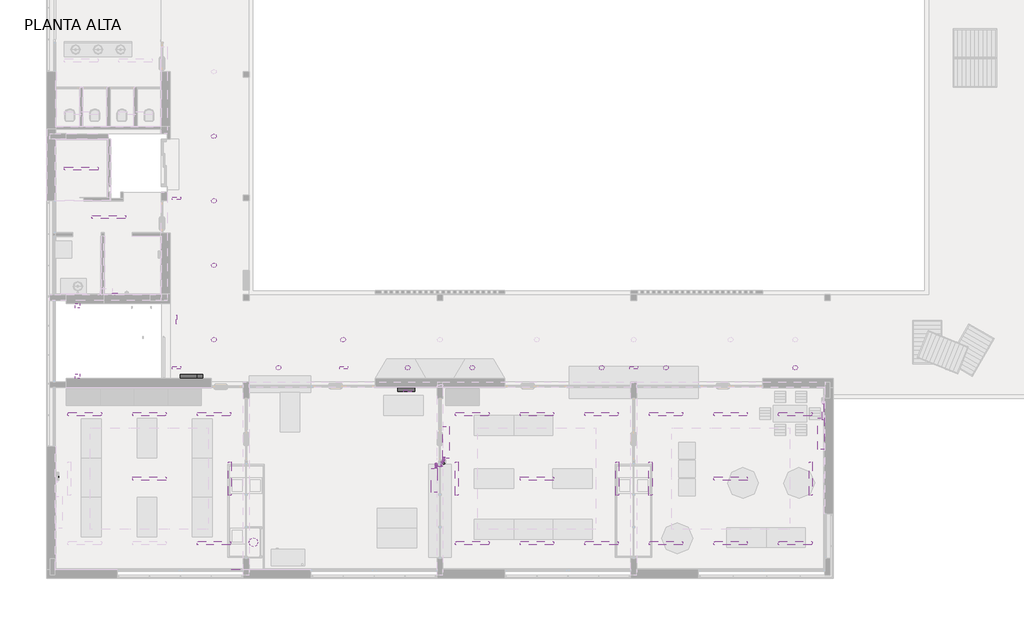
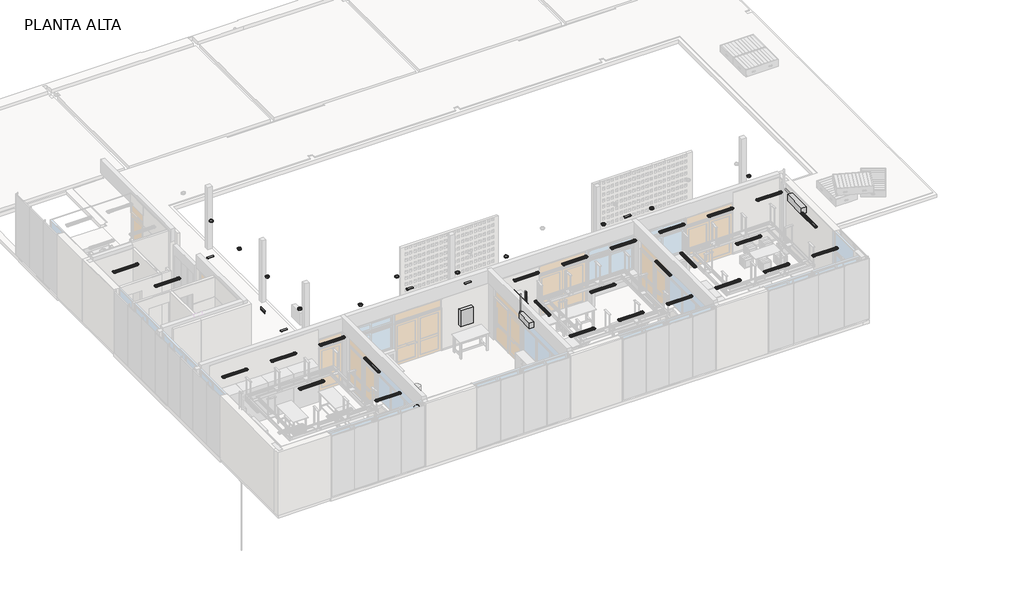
# One storey, part 12 of 14: 46 light fixtures, 20 pipe segments, 10 pipe fittings, 7 proxies.
"""IFC4 building model written with IfcOpenShell, lengths in millimetres."""

from ifc_helpers import new_model, si_unit, point, frame, frame_2d, origin, place, context, project, spatial, circle_curve, trimmed, segment, composite_curve, outline, extrude, transform, mapped, element, save
from ifc_brep_helpers import plane_surface, cylinder_surface, advanced_brep
from components import aa_unidad_interior_12_18_24_v2_12000btu_578df6c9, aa_unidad_interior_12_18_24_v2_24000btu_6bd6a99b, fi_30cm_ab08db21, pca1_20x80x15_228724ed, tl_60x80x15_6a5c2496, tpa1_60x80x15_be34f1a7, l150_l150_8baf4198, l151_l151_e0f7dd01, l207_l207_1a914073, l207_muro_l207_muro_697710b7, l251_l251_78c3c87a, l508_muro_l508_muro_c32f3ad5, l508_muro_l508_muro_abd03695, pipe_fitting_72b35c3b, m_codo_pvc_serie_40_57727813, m_codo_pvc_serie_40_517a5a8d, m_codo_pvc_serie_40_16f65888

model = new_model("IFC4")

# Units and contexts
model_context = context("Model", 3, world=origin())
ifc_project = project(units=[si_unit("LENGTHUNIT", "METRE", prefix="MILLI")], contexts=[model_context])

# Site, building, storey
site = spatial("IfcSite", under=ifc_project)
building = spatial("IfcBuilding", under=site)
storey = spatial("IfcBuildingStorey", under=building, Name="PLANTA ALTA", Elevation=3310.0)

# Proxies
placement = place(None, origin())
aa_unidad_interior_12_18_24_v2_12000btu_shape = aa_unidad_interior_12_18_24_v2_12000btu_578df6c9(model_context)
element("IfcBuildingElementProxy", 1, Name="AA Unidad interior 12-18-24 V2 : 12000BTU", ObjectType="AA Unidad interior 12-18-24 V2 : 12000BTU", at=placement, inside=storey, context=model_context, shape_type="MappedRepresentation", body=[
    mapped(aa_unidad_interior_12_18_24_v2_12000btu_shape, transform((16988.7173694, 3708.5637368, 6110.0), x_axis=(0.0, -1.0, 4.846079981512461e-12), y_axis=(0.0, 4.846079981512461e-12, 1.0), z_axis=(-1.0, 0.0, 0.0))),
])
aa_unidad_interior_12_18_24_v2_24000btu_shape = aa_unidad_interior_12_18_24_v2_24000btu_6bd6a99b(model_context)
element("IfcBuildingElementProxy", 2, Name="AA Unidad interior 12-18-24 V2 : 24000BTU", ObjectType="AA Unidad interior 12-18-24 V2 : 24000BTU", at=placement, inside=storey, context=model_context, shape_type="MappedRepresentation", body=[
    mapped(aa_unidad_interior_12_18_24_v2_24000btu_shape, transform((30773.7173693, 5368.5637368, 6110.0), x_axis=(0.0, -1.0, 0.0), y_axis=(0.0, 0.0, 1.0), z_axis=(-1.0, 0.0, 0.0))),
])
element("IfcBuildingElementProxy", 3, Name="AA Unidad interior 12-18-24 V2 : 24000BTU", ObjectType="AA Unidad interior 12-18-24 V2 : 24000BTU", at=placement, inside=storey, context=model_context, shape_type="MappedRepresentation", body=[
    mapped(aa_unidad_interior_12_18_24_v2_24000btu_shape, transform((17188.7173694, 5058.5637368, 6110.0), x_axis=(0.0, 1.0, 0.0), y_axis=(0.0, 0.0, 1.0), z_axis=(1.0, 0.0, 0.0))),
])
fi_30cm_shape = fi_30cm_ab08db21(model_context)
element("IfcBuildingElementProxy", 4, Name="Extractor Decor Circular : Fi 30cm", ObjectType="Extractor Decor Circular : Fi 30cm", at=placement, inside=storey, context=model_context, shape_type="MappedRepresentation", body=[
    mapped(fi_30cm_shape, transform((9812.7173693, 508.7304035, 6134.0), x_axis=(0.0, 0.0, 1.0), y_axis=(-1.0, 0.0, 0.0), z_axis=(0.0, -1.0, 0.0))),
])
pca1_20x80x15_shape = pca1_20x80x15_228724ed(model_context)
element("IfcBuildingElementProxy", 5, Name="TABLERO ELECTRICO DE SUPERFICIE : PCA1 20x80x15", ObjectType="TABLERO ELECTRICO DE SUPERFICIE : PCA1 20x80x15", at=placement, inside=storey, context=model_context, shape_type="MappedRepresentation", body=[
    mapped(pca1_20x80x15_shape, transform((8544.7173694, 7330.2304035, 5110.0), x_axis=(-1.0, 0.0, 0.0), y_axis=(0.0, 0.0, 1.0), z_axis=(0.0, 1.0, 0.0))),
])
tl_60x80x15_shape = tl_60x80x15_6a5c2496(model_context)
element("IfcBuildingElementProxy", 6, Name="TABLERO ELECTRICO DE SUPERFICIE : TL 60x80x15", ObjectType="TABLERO ELECTRICO DE SUPERFICIE : TL 60x80x15", at=placement, inside=storey, context=model_context, shape_type="MappedRepresentation", body=[
    mapped(tl_60x80x15_shape, transform((15888.7173694, 7020.2304035, 5110.0), x_axis=(-1.0, 0.0, 0.0), y_axis=(0.0, 0.0, -1.0), z_axis=(0.0, -1.0, 0.0))),
])
tpa1_60x80x15_shape = tpa1_60x80x15_be34f1a7(model_context)
element("IfcBuildingElementProxy", 7, Name="TABLERO ELECTRICO DE SUPERFICIE : TPA1 60x80x15", ObjectType="TABLERO ELECTRICO DE SUPERFICIE : TPA1 60x80x15", at=placement, inside=storey, context=model_context, shape_type="MappedRepresentation", body=[
    mapped(tpa1_60x80x15_shape, transform((8144.7173694, 7330.2304035, 5110.0), x_axis=(-1.0, 0.0, 0.0), y_axis=(0.0, 0.0, 1.0), z_axis=(0.0, 1.0, 0.0))),
])

# Light fixtures
l150_l150_shape = l150_l150_8baf4198(model_context)
element("IfcLightFixture", 8, ObjectType="L150 : L150", at=placement, inside=storey, context=model_context, shape_type="MappedRepresentation", body=[
    mapped(l150_l150_shape, transform((7708.7173693, 9437.7304035, 6410.0), x_axis=(0.0, -1.0, 0.0), y_axis=(-1.0, 0.0, 0.0), z_axis=(0.0, 0.0, -1.0))),
])
l151_l151_shape = l151_l151_e0f7dd01(model_context)
element("IfcLightFixture", 9, ObjectType="L151 : L151", at=placement, inside=storey, context=model_context, shape_type="MappedRepresentation", body=[
    mapped(l151_l151_shape, transform((7708.7173693, 7720.2304035, 6410.0), x_axis=(0.0, -1.0, 0.0), y_axis=(-1.0, 0.0, 0.0), z_axis=(0.0, 0.0, -1.0))),
])
element("IfcLightFixture", 10, ObjectType="L151 : L151", at=placement, inside=storey, context=model_context, shape_type="MappedRepresentation", body=[
    mapped(l151_l151_shape, transform((13663.7173694, 7720.2304035, 6410.0), x_axis=(0.0, -1.0, 0.0), y_axis=(-1.0, 0.0, 0.0), z_axis=(0.0, 0.0, -1.0))),
])
element("IfcLightFixture", 11, ObjectType="L151 : L151", at=placement, inside=storey, context=model_context, shape_type="MappedRepresentation", body=[
    mapped(l151_l151_shape, transform((15938.7173693, 6892.7389909, 6410.0), x_axis=(0.0, -1.0, 0.0), y_axis=(-1.0, 0.0, 0.0), z_axis=(0.0, 0.0, -1.0))),
])
element("IfcLightFixture", 12, ObjectType="L151 : L151", at=placement, inside=storey, context=model_context, shape_type="MappedRepresentation", body=[
    mapped(l151_l151_shape, transform((23988.7173694, 7720.2304035, 6410.0), x_axis=(0.0, -1.0, 0.0), y_axis=(-1.0, 0.0, 0.0), z_axis=(0.0, 0.0, -1.0))),
])
element("IfcLightFixture", 13, ObjectType="L151 : L151", at=placement, inside=storey, context=model_context, shape_type="MappedRepresentation", body=[
    mapped(l151_l151_shape, transform((7708.7173693, 13755.2304035, 6410.0), x_axis=(0.0, -1.0, 0.0), y_axis=(-1.0, 0.0, 0.0), z_axis=(0.0, 0.0, -1.0))),
])
l207_l207_shape = l207_l207_1a914073(model_context)
element("IfcLightFixture", 14, ObjectType="L207 : L207", at=placement, inside=storey, context=model_context, shape_type="MappedRepresentation", body=[
    mapped(l207_l207_shape, transform((9038.7173693, 8720.2304035, 3410.0), x_axis=(1.0, 0.0, 0.0), y_axis=(0.0, 1.0, 0.0), z_axis=(0.0, 0.0, 1.0))),
])
element("IfcLightFixture", 15, ObjectType="L207 : L207", at=placement, inside=storey, context=model_context, shape_type="MappedRepresentation", body=[
    mapped(l207_l207_shape, transform((13638.7173693, 8720.2304035, 3410.0), x_axis=(1.0, 0.0, 0.0), y_axis=(0.0, 1.0, 0.0), z_axis=(0.0, 0.0, 1.0))),
])
element("IfcLightFixture", 16, ObjectType="L207 : L207", at=placement, inside=storey, context=model_context, shape_type="MappedRepresentation", body=[
    mapped(l207_l207_shape, transform((29738.7173693, 7720.2304035, 3410.0), x_axis=(1.0, 0.0, 0.0), y_axis=(0.0, 1.0, 0.0), z_axis=(0.0, 0.0, 1.0))),
])
element("IfcLightFixture", 17, ObjectType="L207 : L207", at=placement, inside=storey, context=model_context, shape_type="MappedRepresentation", body=[
    mapped(l207_l207_shape, transform((25138.7173693, 7720.2304035, 3410.0), x_axis=(1.0, 0.0, 0.0), y_axis=(0.0, 1.0, 0.0), z_axis=(0.0, 0.0, 1.0))),
])
element("IfcLightFixture", 18, ObjectType="L207 : L207", at=placement, inside=storey, context=model_context, shape_type="MappedRepresentation", body=[
    mapped(l207_l207_shape, transform((22849.2317664, 7720.2304035, 3410.0), x_axis=(1.0, 0.0, 0.0), y_axis=(0.0, 1.0, 0.0), z_axis=(0.0, 0.0, 1.0))),
])
element("IfcLightFixture", 19, ObjectType="L207 : L207", at=placement, inside=storey, context=model_context, shape_type="MappedRepresentation", body=[
    mapped(l207_l207_shape, transform((18238.7173694, 7720.2304035, 3410.0), x_axis=(1.0, 0.0, 0.0), y_axis=(0.0, 1.0, 0.0), z_axis=(0.0, 0.0, 1.0))),
])
element("IfcLightFixture", 20, ObjectType="L207 : L207", at=placement, inside=storey, context=model_context, shape_type="MappedRepresentation", body=[
    mapped(l207_l207_shape, transform((15938.7173693, 7720.2304035, 3410.0), x_axis=(1.0, 0.0, 0.0), y_axis=(0.0, 1.0, 0.0), z_axis=(0.0, 0.0, 1.0))),
])
element("IfcLightFixture", 21, ObjectType="L207 : L207", at=placement, inside=storey, context=model_context, shape_type="MappedRepresentation", body=[
    mapped(l207_l207_shape, transform((11338.7173693, 7720.2304035, 3410.0), x_axis=(1.0, 0.0, 0.0), y_axis=(0.0, 1.0, 0.0), z_axis=(0.0, 0.0, 1.0))),
])
element("IfcLightFixture", 22, ObjectType="L207 : L207", at=placement, inside=storey, context=model_context, shape_type="MappedRepresentation", body=[
    mapped(l207_l207_shape, transform((9038.7173693, 11370.2304035, 3410.0), x_axis=(1.0, 0.0, 0.0), y_axis=(0.0, 1.0, 0.0), z_axis=(0.0, 0.0, 1.0))),
])
element("IfcLightFixture", 23, ObjectType="L207 : L207", at=placement, inside=storey, context=model_context, shape_type="MappedRepresentation", body=[
    mapped(l207_l207_shape, transform((9038.7173693, 13670.2304035, 3410.0), x_axis=(1.0, 0.0, 0.0), y_axis=(0.0, 1.0, 0.0), z_axis=(0.0, 0.0, 1.0))),
])
element("IfcLightFixture", 24, ObjectType="L207 : L207", at=placement, inside=storey, context=model_context, shape_type="MappedRepresentation", body=[
    mapped(l207_l207_shape, transform((9038.7173693, 15970.2304035, 3410.0), x_axis=(1.0, 0.0, 0.0), y_axis=(0.0, 1.0, 0.0), z_axis=(0.0, 0.0, 1.0))),
])
l207_muro_l207_muro_shape = l207_muro_l207_muro_697710b7(model_context)
element("IfcLightFixture", 25, ObjectType="L207 Muro : L207 Muro", at=placement, inside=storey, context=model_context, shape_type="MappedRepresentation", body=[
    mapped(l207_muro_l207_muro_shape, transform((5376.7320753, 10175.2304035, 3640.0), x_axis=(1.0, 0.0, 0.0), y_axis=(0.0, 1.0, 0.0), z_axis=(0.0, 0.0, 1.0))),
])
l251_l251_shape = l251_l251_78c3c87a(model_context)
element("IfcLightFixture", 26, ObjectType="L251 : L251", at=placement, inside=storey, context=model_context, shape_type="MappedRepresentation", body=[
    mapped(l251_l251_shape, transform((6740.2173693, 3768.5637368, 5010.0), x_axis=(1.0, 0.0, 0.0), y_axis=(0.0, 1.0, 0.0), z_axis=(0.0, 0.0, 1.0))),
])
element("IfcLightFixture", 27, ObjectType="L251 : L251", at=placement, inside=storey, context=model_context, shape_type="MappedRepresentation", body=[
    mapped(l251_l251_shape, transform((6740.2173693, 6068.5637368, 5010.0), x_axis=(1.0, 0.0, 0.0), y_axis=(0.0, 1.0, 0.0), z_axis=(0.0, 0.0, 1.0))),
])
element("IfcLightFixture", 28, ObjectType="L251 : L251", at=placement, inside=storey, context=model_context, shape_type="MappedRepresentation", body=[
    mapped(l251_l251_shape, transform((4440.2173693, 6068.5637368, 5010.0), x_axis=(1.0, 0.0, 0.0), y_axis=(0.0, 1.0, 0.0), z_axis=(0.0, 0.0, 1.0))),
])
element("IfcLightFixture", 29, ObjectType="L251 : L251", at=placement, inside=storey, context=model_context, shape_type="MappedRepresentation", body=[
    mapped(l251_l251_shape, transform((9597.7173693, 3768.5637368, 5010.0), x_axis=(0.0, 1.0, 0.0), y_axis=(-1.0, 0.0, 0.0), z_axis=(0.0, 0.0, 1.0))),
])
element("IfcLightFixture", 30, ObjectType="L251 : L251", at=placement, inside=storey, context=model_context, shape_type="MappedRepresentation", body=[
    mapped(l251_l251_shape, transform((9040.2173693, 6068.5637368, 5010.0), x_axis=(1.0, 0.0, 0.0), y_axis=(0.0, 1.0, 0.0), z_axis=(0.0, 0.0, 1.0))),
])
element("IfcLightFixture", 31, ObjectType="L251 : L251", at=placement, inside=storey, context=model_context, shape_type="MappedRepresentation", body=[
    mapped(l251_l251_shape, transform((9040.2173693, 1468.5637368, 5010.0), x_axis=(1.0, 0.0, 0.0), y_axis=(0.0, 1.0, 0.0), z_axis=(0.0, 0.0, 1.0))),
])
element("IfcLightFixture", 32, ObjectType="L251 : L251", at=placement, inside=storey, context=model_context, shape_type="MappedRepresentation", body=[
    mapped(l251_l251_shape, transform((4316.2173694, 14820.2304035, 5010.0), x_axis=(1.0, 0.0, 0.0), y_axis=(0.0, 1.0, 0.0), z_axis=(0.0, 0.0, 1.0))),
])
element("IfcLightFixture", 33, ObjectType="L251 : L251", at=placement, inside=storey, context=model_context, shape_type="MappedRepresentation", body=[
    mapped(l251_l251_shape, transform((5296.2173693, 13095.2304035, 5010.0), x_axis=(1.0, 0.0, 0.0), y_axis=(0.0, 1.0, 0.0), z_axis=(0.0, 0.0, 1.0))),
])
element("IfcLightFixture", 34, ObjectType="L251 : L251", at=placement, inside=storey, context=model_context, shape_type="MappedRepresentation", body=[
    mapped(l251_l251_shape, transform((27440.2173693, 3768.5637368, 5020.0), x_axis=(1.0, 0.0, 0.0), y_axis=(0.0, 1.0, 0.0), z_axis=(0.0, 0.0, 1.0))),
])
element("IfcLightFixture", 35, ObjectType="L251 : L251", at=placement, inside=storey, context=model_context, shape_type="MappedRepresentation", body=[
    mapped(l251_l251_shape, transform((27440.2173693, 6068.5637368, 5020.0), x_axis=(1.0, 0.0, 0.0), y_axis=(0.0, 1.0, 0.0), z_axis=(0.0, 0.0, 1.0))),
])
element("IfcLightFixture", 36, ObjectType="L251 : L251", at=placement, inside=storey, context=model_context, shape_type="MappedRepresentation", body=[
    mapped(l251_l251_shape, transform((27440.2173693, 1468.5637368, 5020.0), x_axis=(1.0, 0.0, 0.0), y_axis=(0.0, 1.0, 0.0), z_axis=(0.0, 0.0, 1.0))),
])
element("IfcLightFixture", 37, ObjectType="L251 : L251", at=placement, inside=storey, context=model_context, shape_type="MappedRepresentation", body=[
    mapped(l251_l251_shape, transform((24582.7173693, 3768.5637368, 5020.0), x_axis=(0.0, 1.0, 0.0), y_axis=(-1.0, 0.0, 0.0), z_axis=(0.0, 0.0, 1.0))),
])
element("IfcLightFixture", 38, ObjectType="L251 : L251", at=placement, inside=storey, context=model_context, shape_type="MappedRepresentation", body=[
    mapped(l251_l251_shape, transform((25140.2173693, 6068.5637368, 5020.0), x_axis=(1.0, 0.0, 0.0), y_axis=(0.0, 1.0, 0.0), z_axis=(0.0, 0.0, 1.0))),
])
element("IfcLightFixture", 39, ObjectType="L251 : L251", at=placement, inside=storey, context=model_context, shape_type="MappedRepresentation", body=[
    mapped(l251_l251_shape, transform((25140.2173693, 1468.5637368, 5020.0), x_axis=(1.0, 0.0, 0.0), y_axis=(0.0, 1.0, 0.0), z_axis=(0.0, 0.0, 1.0))),
])
element("IfcLightFixture", 40, ObjectType="L251 : L251", at=placement, inside=storey, context=model_context, shape_type="MappedRepresentation", body=[
    mapped(l251_l251_shape, transform((30297.7173693, 3768.5637368, 5020.0), x_axis=(0.0, 1.0, 0.0), y_axis=(-1.0, 0.0, 0.0), z_axis=(0.0, 0.0, 1.0))),
])
element("IfcLightFixture", 41, ObjectType="L251 : L251", at=placement, inside=storey, context=model_context, shape_type="MappedRepresentation", body=[
    mapped(l251_l251_shape, transform((29740.2173693, 6068.5637368, 5020.0), x_axis=(1.0, 0.0, 0.0), y_axis=(0.0, 1.0, 0.0), z_axis=(0.0, 0.0, 1.0))),
])
element("IfcLightFixture", 42, ObjectType="L251 : L251", at=placement, inside=storey, context=model_context, shape_type="MappedRepresentation", body=[
    mapped(l251_l251_shape, transform((29740.2173693, 1468.5637368, 5020.0), x_axis=(1.0, 0.0, 0.0), y_axis=(0.0, 1.0, 0.0), z_axis=(0.0, 0.0, 1.0))),
])
element("IfcLightFixture", 43, ObjectType="L251 : L251", at=placement, inside=storey, context=model_context, shape_type="MappedRepresentation", body=[
    mapped(l251_l251_shape, transform((20540.2173693, 3768.5637368, 5020.0), x_axis=(1.0, 0.0, 0.0), y_axis=(0.0, 1.0, 0.0), z_axis=(0.0, 0.0, 1.0))),
])
element("IfcLightFixture", 44, ObjectType="L251 : L251", at=placement, inside=storey, context=model_context, shape_type="MappedRepresentation", body=[
    mapped(l251_l251_shape, transform((20540.2173693, 6068.5637368, 5020.0), x_axis=(1.0, 0.0, 0.0), y_axis=(0.0, 1.0, 0.0), z_axis=(0.0, 0.0, 1.0))),
])
element("IfcLightFixture", 45, ObjectType="L251 : L251", at=placement, inside=storey, context=model_context, shape_type="MappedRepresentation", body=[
    mapped(l251_l251_shape, transform((20540.2173693, 1468.5637368, 5020.0), x_axis=(1.0, 0.0, 0.0), y_axis=(0.0, 1.0, 0.0), z_axis=(0.0, 0.0, 1.0))),
])
element("IfcLightFixture", 46, ObjectType="L251 : L251", at=placement, inside=storey, context=model_context, shape_type="MappedRepresentation", body=[
    mapped(l251_l251_shape, transform((17682.7173693, 3768.5637368, 5020.0), x_axis=(0.0, 1.0, 0.0), y_axis=(-1.0, 0.0, 0.0), z_axis=(0.0, 0.0, 1.0))),
])
element("IfcLightFixture", 47, ObjectType="L251 : L251", at=placement, inside=storey, context=model_context, shape_type="MappedRepresentation", body=[
    mapped(l251_l251_shape, transform((18240.2173693, 6068.5637368, 5020.0), x_axis=(1.0, 0.0, 0.0), y_axis=(0.0, 1.0, 0.0), z_axis=(0.0, 0.0, 1.0))),
])
element("IfcLightFixture", 48, ObjectType="L251 : L251", at=placement, inside=storey, context=model_context, shape_type="MappedRepresentation", body=[
    mapped(l251_l251_shape, transform((18240.2173693, 1468.5637368, 5020.0), x_axis=(1.0, 0.0, 0.0), y_axis=(0.0, 1.0, 0.0), z_axis=(0.0, 0.0, 1.0))),
])
element("IfcLightFixture", 49, ObjectType="L251 : L251", at=placement, inside=storey, context=model_context, shape_type="MappedRepresentation", body=[
    mapped(l251_l251_shape, transform((23397.7173693, 3768.5637368, 5020.0), x_axis=(0.0, 1.0, 0.0), y_axis=(-1.0, 0.0, 0.0), z_axis=(0.0, 0.0, 1.0))),
])
element("IfcLightFixture", 50, ObjectType="L251 : L251", at=placement, inside=storey, context=model_context, shape_type="MappedRepresentation", body=[
    mapped(l251_l251_shape, transform((22840.2173693, 6068.5637368, 5020.0), x_axis=(1.0, 0.0, 0.0), y_axis=(0.0, 1.0, 0.0), z_axis=(0.0, 0.0, 1.0))),
])
element("IfcLightFixture", 51, ObjectType="L251 : L251", at=placement, inside=storey, context=model_context, shape_type="MappedRepresentation", body=[
    mapped(l251_l251_shape, transform((22840.2173693, 1468.5637368, 5020.0), x_axis=(1.0, 0.0, 0.0), y_axis=(0.0, 1.0, 0.0), z_axis=(0.0, 0.0, 1.0))),
])
l508_muro_l508_muro_shape = l508_muro_l508_muro_c32f3ad5(model_context)
element("IfcLightFixture", 52, ObjectType="L508 Muro : L508 Muro", at=placement, inside=storey, context=model_context, shape_type="MappedRepresentation", body=[
    mapped(l508_muro_l508_muro_shape, transform((4063.7173693, 7167.7304035, 2880.0), x_axis=(1.0, 0.0, 0.0), y_axis=(0.0, 1.0, 0.0), z_axis=(0.0, 0.0, 1.0))),
])
l508_muro_l508_muro_2_shape = l508_muro_l508_muro_abd03695(model_context)
element("IfcLightFixture", 53, ObjectType="L508 Muro : L508 Muro", at=placement, inside=storey, context=model_context, shape_type="MappedRepresentation", body=[
    mapped(l508_muro_l508_muro_2_shape, transform((4063.7173693, 10172.7304035, 2890.0), x_axis=(1.0, 0.0, 0.0), y_axis=(0.0, 1.0, 0.0), z_axis=(0.0, 0.0, 1.0))),
])

# Pipe fittings
pipe_fitting_shape = pipe_fitting_72b35c3b(model_context)
element("IfcPipeFitting", 54, ObjectType="M_Te - PVC - Serie 40 : Estándar", at=placement, inside=storey, context=model_context, shape_type="MappedRepresentation", body=[
    mapped(pipe_fitting_shape, transform((17212.5090053, 4378.2681546, 2687.4596397), x_axis=(1.666143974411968e-07, 0.9999999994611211, 3.2828802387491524e-05), y_axis=(0.0, 3.282880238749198e-05, -0.999999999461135), z_axis=(-0.9999999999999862, 1.6661439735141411e-07, 5.469751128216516e-12))),
])
m_codo_pvc_serie_40_shape = m_codo_pvc_serie_40_57727813(model_context)
element("IfcPipeFitting", 55, ObjectType="M_Codo - PVC - Serie 40 : Estándar", at=placement, inside=storey, context=model_context, shape_type="MappedRepresentation", body=[
    mapped(m_codo_pvc_serie_40_shape, transform((17222.5091342, 4313.1575259, 2810.0), x_axis=(0.0, 0.0, -1.0), y_axis=(0.0, -1.0, 0.0), z_axis=(-1.0, 0.0, 0.0))),
])
element("IfcPipeFitting", 56, ObjectType="M_Codo - PVC - Serie 40 : Estándar", at=placement, inside=storey, context=model_context, shape_type="MappedRepresentation", body=[
    mapped(m_codo_pvc_serie_40_shape, transform((16954.9256045, 4290.6575259, 6110.0), x_axis=(0.0, 0.0, -1.0), y_axis=(0.0, -1.0, 0.0), z_axis=(-1.0, 0.0, 0.0))),
])
element("IfcPipeFitting", 57, ObjectType="M_Codo - PVC - Serie 40 : Estándar", at=placement, inside=storey, context=model_context, shape_type="MappedRepresentation", body=[
    mapped(m_codo_pvc_serie_40_shape, transform((17222.5091342, 4388.1575259, 6174.29375), x_axis=(0.0, 0.0, -1.0), y_axis=(0.0, 1.0, 0.0), z_axis=(1.0, 0.0, 0.0))),
])
m_codo_pvc_serie_40_2_shape = m_codo_pvc_serie_40_517a5a8d(model_context)
element("IfcPipeFitting", 58, ObjectType="M_Codo - PVC - Serie 40 : Estándar", at=placement, inside=storey, context=model_context, shape_type="MappedRepresentation", body=[
    mapped(m_codo_pvc_serie_40_2_shape, transform((17212.5091143, 4986.0637259, 2687.4817804), x_axis=(0.0, 1.0, 0.0), y_axis=(0.0, 0.0, -1.0), z_axis=(-1.0, 0.0, 0.0))),
])
element("IfcPipeFitting", 59, ObjectType="M_Codo - PVC - Serie 40 : Estándar", at=placement, inside=storey, context=model_context, shape_type="MappedRepresentation", body=[
    mapped(m_codo_pvc_serie_40_2_shape, transform((16954.9256045, 4198.7542007, 6030.0), x_axis=(0.0, 1.0, 0.0), y_axis=(0.0, 0.0, -1.0), z_axis=(-1.0, 0.0, 0.0))),
])
element("IfcPipeFitting", 60, ObjectType="M_Codo - PVC - Serie 40 : Estándar", at=placement, inside=storey, context=model_context, shape_type="MappedRepresentation", body=[
    mapped(m_codo_pvc_serie_40_2_shape, transform((16954.9256045, 4198.7542007, 5873.2808935), x_axis=(0.0, 0.0, -1.0), y_axis=(1.0, 0.0, 0.0), z_axis=(0.0, -1.0, 0.0))),
])
element("IfcPipeFitting", 61, ObjectType="M_Codo - PVC - Serie 40 : Estándar", at=placement, inside=storey, context=model_context, shape_type="MappedRepresentation", body=[
    mapped(m_codo_pvc_serie_40_2_shape, transform((17148.1537329, 4198.7542007, 5873.2808935), x_axis=(1.0, 0.0, 0.0), y_axis=(0.0, 1.0, 0.0), z_axis=(0.0, 0.0, 1.0))),
])
element("IfcPipeFitting", 62, ObjectType="M_Codo - PVC - Serie 40 : Estándar", at=placement, inside=storey, context=model_context, shape_type="MappedRepresentation", body=[
    mapped(m_codo_pvc_serie_40_2_shape, transform((17148.1537329, 4378.1292007, 5873.2808935), x_axis=(-1.0, 0.0, 0.0), y_axis=(0.0, -1.0, 0.0), z_axis=(0.0, 0.0, 1.0))),
])
m_codo_pvc_serie_40_3_shape = m_codo_pvc_serie_40_16f65888(model_context)
element("IfcPipeFitting", 63, ObjectType="M_Codo - PVC - Serie 40 : Estándar", at=placement, inside=storey, context=model_context, shape_type="MappedRepresentation", body=[
    mapped(m_codo_pvc_serie_40_3_shape, transform((17212.5089774, 4378.1576858, 6052.4542197), x_axis=(0.0, -3.282880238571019e-05, 0.9999999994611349), y_axis=(0.0, 0.9999999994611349, 3.282880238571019e-05), z_axis=(-1.0, 0.0, 0.0))),
])

# Pipe segments
element("IfcPipeSegment", 64, ObjectType="Extraccion campana Acero Inox.", at=placement, inside=storey, context=model_context, shape_type="SweptSolid", body=[
    extrude(outline(composite_curve([segment(trimmed(circle_curve(frame_2d((10446.0796047, 1495.8519975)), 161.925), [point((10284.1546047, 1495.8519975))], [point((10446.0796047, 1657.7769975))], False, "CARTESIAN"), True, "CONTINUOUS"), segment(trimmed(circle_curve(frame_2d((10446.0796047, 1495.8519975)), 161.925), [point((10446.0796047, 1657.7769975))], [point((10608.0046047, 1495.8519975))], False, "CARTESIAN"), True, "CONTINUOUS"), segment(trimmed(circle_curve(frame_2d((10446.0796047, 1495.8519975)), 161.925), [point((10608.0046047, 1495.8519975))], [point((10446.0796047, 1333.9269975))], False, "CARTESIAN"), True, "CONTINUOUS"), segment(trimmed(circle_curve(frame_2d((10446.0796047, 1495.8519975)), 161.925), [point((10446.0796047, 1333.9269975))], [point((10284.1546047, 1495.8519975))], False, "CARTESIAN"), True, "CONTINUOUS")], self_intersect=False)), frame((0.0, 0.0, 5440.0), z_axis=(0.0, 0.0, 1.0), x_axis=(1.0, 0.0, 0.0)), (0.0, 0.0, 1.0), 970.0),
])
element("IfcPipeSegment", 65, ObjectType="Conductos Electricos", at=placement, inside=storey, context=model_context, shape_type="SweptSolid", body=[
    extrude(outline(composite_curve([segment(trimmed(circle_curve(frame_2d((3889.8505279, 2655.0)), 30.1625), [point((3859.6880279, 2655.0))], [point((3889.8505279, 2685.1625))], False, "CARTESIAN"), True, "CONTINUOUS"), segment(trimmed(circle_curve(frame_2d((3889.8505279, 2655.0)), 30.1625), [point((3889.8505279, 2685.1625))], [point((3920.0130279, 2655.0))], False, "CARTESIAN"), True, "CONTINUOUS"), segment(trimmed(circle_curve(frame_2d((3889.8505279, 2655.0)), 30.1625), [point((3920.0130279, 2655.0))], [point((3889.8505279, 2624.8375))], False, "CARTESIAN"), True, "CONTINUOUS"), segment(trimmed(circle_curve(frame_2d((3889.8505279, 2655.0)), 30.1625), [point((3889.8505279, 2624.8375))], [point((3859.6880279, 2655.0))], False, "CARTESIAN"), True, "CONTINUOUS")], self_intersect=False)), frame((3516.3680549, 0.0, 0.0), z_axis=(1.0, 0.0, 0.0), x_axis=(0.0, 1.0, 0.0)), (0.0, 0.0, 1.0), 2615.70625),
])
element("IfcPipeSegment", 66, ObjectType="Conductos Electricos", at=placement, inside=storey, context=model_context, shape_type="SweptSolid", body=[
    extrude(outline(composite_curve([segment(trimmed(circle_curve(frame_2d((3826.1005279, 2653.04375)), 16.7005), [point((3809.4000279, 2653.04375))], [point((3826.1005279, 2669.74425))], False, "CARTESIAN"), True, "CONTINUOUS"), segment(trimmed(circle_curve(frame_2d((3826.1005279, 2653.04375)), 16.7005), [point((3826.1005279, 2669.74425))], [point((3842.8010279, 2653.04375))], False, "CARTESIAN"), True, "CONTINUOUS"), segment(trimmed(circle_curve(frame_2d((3826.1005279, 2653.04375)), 16.7005), [point((3842.8010279, 2653.04375))], [point((3826.1005279, 2636.34325))], False, "CARTESIAN"), True, "CONTINUOUS"), segment(trimmed(circle_curve(frame_2d((3826.1005279, 2653.04375)), 16.7005), [point((3826.1005279, 2636.34325))], [point((3809.4000279, 2653.04375))], False, "CARTESIAN"), True, "CONTINUOUS")], self_intersect=False)), frame((3491.7745049, 0.0, 0.0), z_axis=(1.0, 0.0, 0.0), x_axis=(0.0, 1.0, 0.0)), (0.0, 0.0, 1.0), 2880.2998),
])
element("IfcPipeSegment", 67, ObjectType="Conductos Electricos", at=placement, inside=storey, context=model_context, shape_type="SweptSolid", body=[
    extrude(outline(composite_curve([segment(trimmed(circle_curve(frame_2d((17222.5091342, 4313.1575259)), 30.1625), [point((17252.6716342, 4313.1575259))], [point((17222.5091342, 4282.9950259))], False, "CARTESIAN"), True, "CONTINUOUS"), segment(trimmed(circle_curve(frame_2d((17222.5091342, 4313.1575259)), 30.1625), [point((17222.5091342, 4282.9950259))], [point((17192.3466342, 4313.1575259))], False, "CARTESIAN"), True, "CONTINUOUS"), segment(trimmed(circle_curve(frame_2d((17222.5091342, 4313.1575259)), 30.1625), [point((17192.3466342, 4313.1575259))], [point((17222.5091342, 4343.3200259))], False, "CARTESIAN"), True, "CONTINUOUS"), segment(trimmed(circle_curve(frame_2d((17222.5091342, 4313.1575259)), 30.1625), [point((17222.5091342, 4343.3200259))], [point((17252.6716342, 4313.1575259))], False, "CARTESIAN"), True, "CONTINUOUS")], self_intersect=False)), frame((0.0, 0.0, 2874.29375), z_axis=(0.0, 0.0, 1.0), x_axis=(1.0, 0.0, 0.0)), (0.0, 0.0, 1.0), 4159.9096364),
])
element("IfcPipeSegment", 68, ObjectType="Conductos Electricos", at=placement, inside=storey, context=model_context, shape_type="SweptSolid", body=[
    extrude(outline(composite_curve([segment(trimmed(circle_curve(frame_2d((17222.5091342, 4388.1575259)), 30.1625), [point((17252.6716342, 4388.1575259))], [point((17222.5091342, 4357.9950259))], False, "CARTESIAN"), True, "CONTINUOUS"), segment(trimmed(circle_curve(frame_2d((17222.5091342, 4388.1575259)), 30.1625), [point((17222.5091342, 4357.9950259))], [point((17192.3466342, 4388.1575259))], False, "CARTESIAN"), True, "CONTINUOUS"), segment(trimmed(circle_curve(frame_2d((17222.5091342, 4388.1575259)), 30.1625), [point((17192.3466342, 4388.1575259))], [point((17222.5091342, 4418.3200259))], False, "CARTESIAN"), True, "CONTINUOUS"), segment(trimmed(circle_curve(frame_2d((17222.5091342, 4388.1575259)), 30.1625), [point((17222.5091342, 4418.3200259))], [point((17252.6716342, 4388.1575259))], False, "CARTESIAN"), True, "CONTINUOUS")], self_intersect=False)), frame((0.0, 0.0, 6238.5875), z_axis=(0.0, 0.0, 1.0), x_axis=(1.0, 0.0, 0.0)), (0.0, 0.0, 1.0), 795.6158864),
])
element("IfcPipeSegment", 69, ObjectType="Conductos Electricos", at=placement, inside=storey, context=model_context, shape_type="SweptSolid", body=[
    extrude(outline(composite_curve([segment(trimmed(circle_curve(frame_2d((16954.9256045, 4290.6575259)), 30.1625), [point((16985.0881045, 4290.6575259))], [point((16954.9256045, 4260.4950259))], False, "CARTESIAN"), True, "CONTINUOUS"), segment(trimmed(circle_curve(frame_2d((16954.9256045, 4290.6575259)), 30.1625), [point((16954.9256045, 4260.4950259))], [point((16924.7631045, 4290.6575259))], False, "CARTESIAN"), True, "CONTINUOUS"), segment(trimmed(circle_curve(frame_2d((16954.9256045, 4290.6575259)), 30.1625), [point((16924.7631045, 4290.6575259))], [point((16954.9256045, 4320.8200259))], False, "CARTESIAN"), True, "CONTINUOUS"), segment(trimmed(circle_curve(frame_2d((16954.9256045, 4290.6575259)), 30.1625), [point((16954.9256045, 4320.8200259))], [point((16985.0881045, 4290.6575259))], False, "CARTESIAN"), True, "CONTINUOUS")], self_intersect=False)), frame((0.0, 0.0, 6174.29375), z_axis=(0.0, 0.0, 1.0), x_axis=(1.0, 0.0, 0.0)), (0.0, 0.0, 1.0), 859.9096364),
])
element("IfcPipeSegment", 70, ObjectType="Conductos Electricos", at=placement, inside=storey, context=model_context, shape_type="AdvancedBrep", body=[
    advanced_brep(
    [(17195.8085053, 4378.2668513, 2727.1598395), (17212.5090053, 4394.9673513, 2727.1603879), (17229.2095053, 4378.2668513, 2727.1598398), (17212.5090053, 4361.5663513, 2727.1592914), (17195.8084774, 4378.1591061, 6009.1909789), (17212.5089774, 4361.4586061, 6009.1904308), (17229.2094774, 4378.1591061, 6009.1909792), (17212.5089774, 4394.8596061, 6009.1915273)],
    [
        (0, 1, circle_curve(frame((17212.5090053, 4378.2668513, 2727.1598395), z_axis=(0.0, 3.282880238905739e-05, -0.9999999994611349), x_axis=(-1.0, 0.0, 0.0)), 16.7005)),
        (1, 2, circle_curve(frame((17212.5090053, 4378.2668513, 2727.1598397), z_axis=(0.0, 3.282880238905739e-05, -0.9999999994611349), x_axis=(-1.0, 0.0, 0.0)), 16.7005)),
        (2, 3, circle_curve(frame((17212.5090053, 4378.2668513, 2727.1598398), z_axis=(0.0, 3.282880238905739e-05, -0.9999999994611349), x_axis=(-1.0, 0.0, 0.0)), 16.7005)),
        (3, 0, circle_curve(frame((17212.5090053, 4378.2668513, 2727.1598397), z_axis=(0.0, 3.282880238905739e-05, -0.9999999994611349), x_axis=(-1.0, 0.0, 0.0)), 16.7005)),
        (4, 5, circle_curve(frame((17212.5090053, 4378.1591061, 6009.1909789), z_axis=(0.0, -3.282880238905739e-05, 0.9999999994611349), x_axis=(-1.0, 0.0, 0.0)), 16.700528)),
        (5, 6, circle_curve(frame((17212.5090053, 4378.1591061, 6009.1909791), z_axis=(0.0, -3.282880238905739e-05, 0.9999999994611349), x_axis=(-1.0, 0.0, 0.0)), 16.7005)),
        (6, 7, circle_curve(frame((17212.5090053, 4378.1591061, 6009.1909792), z_axis=(0.0, -3.282880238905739e-05, 0.9999999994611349), x_axis=(-1.0, 0.0, 0.0)), 16.700472)),
        (7, 4, circle_curve(frame((17212.5090053, 4378.1591061, 6009.1909791), z_axis=(0.0, -3.282880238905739e-05, 0.9999999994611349), x_axis=(-1.0, 0.0, 0.0)), 16.7005)),
        (0, 4),
        (7, 1),
        (6, 2),
        (5, 3),
    ],
    [
        plane_surface(frame((17212.5090053, 4361.5663513, 2727.1592914), z_axis=(8.519208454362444e-09, 3.282880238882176e-05, -0.9999999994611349), x_axis=(1.0, 0.0, 8.519208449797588e-09))),
        plane_surface(frame((17212.5089774, 4361.4586061, 6009.1904308), z_axis=(-8.519208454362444e-09, -3.282880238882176e-05, 0.9999999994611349), x_axis=(1.0, 0.0, 8.519208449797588e-09))),
        cylinder_surface(frame((17212.5090053, 4378.2668513, 2727.1598397), z_axis=(0.0, 3.282880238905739e-05, -0.9999999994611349), x_axis=(-1.0, 0.0, 0.0)), 16.7005),
    ],
    [
        (0, [[1, 2, 3, 4]]),
        (1, [[5, 6, 7, 8]]),
        (2, [[-1, 9, -8, 10]]),
        (2, [[-2, -10, -7, 11]]),
        (2, [[-3, -11, -6, 12]]),
        (2, [[-4, -12, -5, -9]]),
    ],
),
])
element("IfcPipeSegment", 71, ObjectType="Conductos Electricos", at=placement, inside=storey, context=model_context, shape_type="SweptSolid", body=[
    extrude(outline(composite_curve([segment(trimmed(circle_curve(frame_2d((2810.0, 17222.5091342)), 30.1625), [point((2810.0, 17192.3466342))], [point((2779.8375, 17222.5091342))], False, "CARTESIAN"), True, "CONTINUOUS"), segment(trimmed(circle_curve(frame_2d((2810.0, 17222.5091342)), 30.1625), [point((2779.8375, 17222.5091342))], [point((2810.0, 17252.6716342))], False, "CARTESIAN"), True, "CONTINUOUS"), segment(trimmed(circle_curve(frame_2d((2810.0, 17222.5091342)), 30.1625), [point((2810.0, 17252.6716342))], [point((2840.1625, 17222.5091342))], False, "CARTESIAN"), True, "CONTINUOUS"), segment(trimmed(circle_curve(frame_2d((2810.0, 17222.5091342)), 30.1625), [point((2840.1625, 17222.5091342))], [point((2810.0, 17192.3466342))], False, "CARTESIAN"), True, "CONTINUOUS")], self_intersect=False)), frame((0.0, 4213.5637368, 0.0), z_axis=(0.0, 1.0, 0.0), x_axis=(0.0, 0.0, 1.0)), (0.0, 0.0, 1.0), 35.3000391),
])
element("IfcPipeSegment", 72, ObjectType="Conductos Electricos", at=placement, inside=storey, context=model_context, shape_type="AdvancedBrep", body=[
    advanced_brep(
    [(17229.2096143, 4986.0637259, 2644.2192305), (17212.5091143, 5002.7642259, 2644.2192304), (17195.8086143, 4986.0637259, 2644.2192303), (17212.5091143, 4969.3632259, 2644.2192304), (17229.2096342, 4986.0637259, -505.7966135), (17212.5091342, 4969.3632259, -505.7966136), (17195.8086342, 4986.0637259, -505.7966137), (17212.5091342, 5002.7642259, -505.7966136)],
    [
        (0, 1, circle_curve(frame((17212.5091143, 4986.0637259, 2644.2192305), z_axis=(0.0, 0.0, 1.0), x_axis=(1.0, 0.0, 0.0)), 16.7005)),
        (1, 2, circle_curve(frame((17212.5091143, 4986.0637259, 2644.2192304), z_axis=(0.0, 0.0, 1.0), x_axis=(1.0, 0.0, 0.0)), 16.7005)),
        (2, 3, circle_curve(frame((17212.5091143, 4986.0637259, 2644.2192303), z_axis=(0.0, 0.0, 1.0), x_axis=(1.0, 0.0, 0.0)), 16.7005)),
        (3, 0, circle_curve(frame((17212.5091143, 4986.0637259, 2644.2192304), z_axis=(0.0, 0.0, 1.0), x_axis=(1.0, 0.0, 0.0)), 16.7005)),
        (4, 5, circle_curve(frame((17212.5091143, 4986.0637259, -505.7966135), z_axis=(0.0, 0.0, -1.0), x_axis=(1.0, 0.0, 0.0)), 16.7005199)),
        (5, 6, circle_curve(frame((17212.5091143, 4986.0637259, -505.7966136), z_axis=(0.0, 0.0, -1.0), x_axis=(1.0, 0.0, 0.0)), 16.7005)),
        (6, 7, circle_curve(frame((17212.5091143, 4986.0637259, -505.7966137), z_axis=(0.0, 0.0, -1.0), x_axis=(1.0, 0.0, 0.0)), 16.7004801)),
        (7, 4, circle_curve(frame((17212.5091143, 4986.0637259, -505.7966136), z_axis=(0.0, 0.0, -1.0), x_axis=(1.0, 0.0, 0.0)), 16.7005)),
        (0, 4),
        (7, 1),
        (6, 2),
        (5, 3),
    ],
    [
        plane_surface(frame((17212.5091143, 4969.3632259, 2644.2192304), z_axis=(-6.316581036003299e-09, 0.0, 1.0), x_axis=(-1.0, 0.0, -6.316581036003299e-09))),
        plane_surface(frame((17212.5091342, 4969.3632259, -505.7966136), z_axis=(6.316581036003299e-09, 0.0, -1.0), x_axis=(-1.0, 0.0, -6.316581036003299e-09))),
        cylinder_surface(frame((17212.5091143, 4986.0637259, 2644.2192304), z_axis=(0.0, 0.0, 1.0), x_axis=(1.0, 0.0, 0.0)), 16.7005),
    ],
    [
        (0, [[1, 2, 3, 4]]),
        (1, [[5, 6, 7, 8]]),
        (2, [[-1, 9, -8, 10]]),
        (2, [[-2, -10, -7, 11]]),
        (2, [[-3, -11, -6, 12]]),
        (2, [[-4, -12, -5, -9]]),
    ],
),
])
element("IfcPipeSegment", 73, ObjectType="Conductos Electricos", at=placement, inside=storey, context=model_context, shape_type="SweptSolid", body=[
    extrude(outline(composite_curve([segment(trimmed(circle_curve(frame_2d((6110.0, 16954.9256045)), 30.1625), [point((6110.0, 16924.7631045))], [point((6079.8375, 16954.9256045))], False, "CARTESIAN"), True, "CONTINUOUS"), segment(trimmed(circle_curve(frame_2d((6110.0, 16954.9256045)), 30.1625), [point((6079.8375, 16954.9256045))], [point((6110.0, 16985.0881045))], False, "CARTESIAN"), True, "CONTINUOUS"), segment(trimmed(circle_curve(frame_2d((6110.0, 16954.9256045)), 30.1625), [point((6110.0, 16985.0881045))], [point((6140.1625, 16954.9256045))], False, "CARTESIAN"), True, "CONTINUOUS"), segment(trimmed(circle_curve(frame_2d((6110.0, 16954.9256045)), 30.1625), [point((6140.1625, 16954.9256045))], [point((6110.0, 16924.7631045))], False, "CARTESIAN"), True, "CONTINUOUS")], self_intersect=False)), frame((0.0, 4133.5637368, 0.0), z_axis=(0.0, 1.0, 0.0), x_axis=(0.0, 0.0, 1.0)), (0.0, 0.0, 1.0), 92.8000391),
])
element("IfcPipeSegment", 74, ObjectType="Conductos Electricos", at=placement, inside=storey, context=model_context, shape_type="SweptSolid", body=[
    extrude(outline(composite_curve([segment(trimmed(circle_curve(frame_2d((6030.0, 16954.9256045)), 16.7005), [point((6030.0, 16938.2251045))], [point((6013.2995, 16954.9256045))], False, "CARTESIAN"), True, "CONTINUOUS"), segment(trimmed(circle_curve(frame_2d((6030.0, 16954.9256045)), 16.7005), [point((6013.2995, 16954.9256045))], [point((6030.0, 16971.6261045))], False, "CARTESIAN"), True, "CONTINUOUS"), segment(trimmed(circle_curve(frame_2d((6030.0, 16954.9256045)), 16.7005), [point((6030.0, 16971.6261045))], [point((6046.7005, 16954.9256045))], False, "CARTESIAN"), True, "CONTINUOUS"), segment(trimmed(circle_curve(frame_2d((6030.0, 16954.9256045)), 16.7005), [point((6046.7005, 16954.9256045))], [point((6030.0, 16938.2251045))], False, "CARTESIAN"), True, "CONTINUOUS")], self_intersect=False)), frame((0.0, 4133.5637368, 0.0), z_axis=(0.0, 1.0, 0.0), x_axis=(0.0, 0.0, 1.0)), (0.0, 0.0, 1.0), 21.9279138),
])
element("IfcPipeSegment", 75, ObjectType="Conductos Electricos", at=placement, inside=storey, context=model_context, shape_type="SweptSolid", body=[
    extrude(outline(composite_curve([segment(trimmed(circle_curve(frame_2d((16954.9256045, 4198.7542007)), 16.7005), [point((16971.6261045, 4198.7542007))], [point((16954.9256045, 4182.0537007))], False, "CARTESIAN"), True, "CONTINUOUS"), segment(trimmed(circle_curve(frame_2d((16954.9256045, 4198.7542007)), 16.7005), [point((16954.9256045, 4182.0537007))], [point((16938.2251045, 4198.7542007))], False, "CARTESIAN"), True, "CONTINUOUS"), segment(trimmed(circle_curve(frame_2d((16954.9256045, 4198.7542007)), 16.7005), [point((16938.2251045, 4198.7542007))], [point((16954.9256045, 4215.4547007))], False, "CARTESIAN"), True, "CONTINUOUS"), segment(trimmed(circle_curve(frame_2d((16954.9256045, 4198.7542007)), 16.7005), [point((16954.9256045, 4215.4547007))], [point((16971.6261045, 4198.7542007))], False, "CARTESIAN"), True, "CONTINUOUS")], self_intersect=False)), frame((0.0, 0.0, 5916.5434435), z_axis=(0.0, 0.0, 1.0), x_axis=(1.0, 0.0, 0.0)), (0.0, 0.0, 1.0), 70.1940065),
])
element("IfcPipeSegment", 76, ObjectType="Conductos Electricos", at=placement, inside=storey, context=model_context, shape_type="SweptSolid", body=[
    extrude(outline(composite_curve([segment(trimmed(circle_curve(frame_2d((4198.7542007, 5873.2808935)), 16.7005), [point((4182.0537007, 5873.2808935))], [point((4198.7542007, 5889.9813935))], False, "CARTESIAN"), True, "CONTINUOUS"), segment(trimmed(circle_curve(frame_2d((4198.7542007, 5873.2808935)), 16.7005), [point((4198.7542007, 5889.9813935))], [point((4215.4547007, 5873.2808935))], False, "CARTESIAN"), True, "CONTINUOUS"), segment(trimmed(circle_curve(frame_2d((4198.7542007, 5873.2808935)), 16.7005), [point((4215.4547007, 5873.2808935))], [point((4198.7542007, 5856.5803935))], False, "CARTESIAN"), True, "CONTINUOUS"), segment(trimmed(circle_curve(frame_2d((4198.7542007, 5873.2808935)), 16.7005), [point((4198.7542007, 5856.5803935))], [point((4182.0537007, 5873.2808935))], False, "CARTESIAN"), True, "CONTINUOUS")], self_intersect=False)), frame((16998.1881545, 0.0, 0.0), z_axis=(1.0, 0.0, 0.0), x_axis=(0.0, 1.0, 0.0)), (0.0, 0.0, 1.0), 106.7030285),
])
element("IfcPipeSegment", 77, ObjectType="Conductos Electricos", at=placement, inside=storey, context=model_context, shape_type="SweptSolid", body=[
    extrude(outline(composite_curve([segment(trimmed(circle_curve(frame_2d((6164.231432, 30731.2173693)), 30.1625), [point((6164.231432, 30761.3798693))], [point((6194.393932, 30731.2173693))], False, "CARTESIAN"), True, "CONTINUOUS"), segment(trimmed(circle_curve(frame_2d((6164.231432, 30731.2173693)), 30.1625), [point((6194.393932, 30731.2173693))], [point((6164.231432, 30701.0548693))], False, "CARTESIAN"), True, "CONTINUOUS"), segment(trimmed(circle_curve(frame_2d((6164.231432, 30731.2173693)), 30.1625), [point((6164.231432, 30701.0548693))], [point((6134.068932, 30731.2173693))], False, "CARTESIAN"), True, "CONTINUOUS"), segment(trimmed(circle_curve(frame_2d((6164.231432, 30731.2173693)), 30.1625), [point((6134.068932, 30731.2173693))], [point((6164.231432, 30761.3798693))], False, "CARTESIAN"), True, "CONTINUOUS")], self_intersect=False)), frame((0.0, 5850.996617, 0.0), z_axis=(0.0, 1.0, 0.0), x_axis=(0.0, 0.0, 1.0)), (0.0, 0.0, 1.0), 590.9356569),
])
element("IfcPipeSegment", 78, ObjectType="Conductos Electricos", at=placement, inside=storey, context=model_context, shape_type="SweptSolid", body=[
    extrude(outline(composite_curve([segment(trimmed(circle_curve(frame_2d((0.0, -16.7005)), 16.7005), [point((0.0, 0.0))], [point((16.7005, -16.7005))], False, "CARTESIAN"), True, "CONTINUOUS"), segment(trimmed(circle_curve(frame_2d((0.0, -16.7005)), 16.7005), [point((16.7005, -16.7005))], [point((0.0, -33.401))], False, "CARTESIAN"), True, "CONTINUOUS"), segment(trimmed(circle_curve(frame_2d((0.0, -16.7005)), 16.7005), [point((0.0, -33.401))], [point((-16.7005, -16.7005))], False, "CARTESIAN"), True, "CONTINUOUS"), segment(trimmed(circle_curve(frame_2d((0.0, -16.7005)), 16.7005), [point((-16.7005, -16.7005))], [point((0.0, 0.0))], False, "CARTESIAN"), True, "CONTINUOUS")], self_intersect=False)), frame((17195.8084696, 4183.4574885, 2687.4532542), z_axis=(1.880977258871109e-07, 0.9999999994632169, 3.276478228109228e-05), x_axis=(6.160405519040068e-12, 3.27647822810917e-05, -0.9999999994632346)), (0.0, 0.0, 1.0), 155.1104693),
])
element("IfcPipeSegment", 79, ObjectType="Conductos Electricos", at=placement, inside=storey, context=model_context, shape_type="SweptSolid", body=[
    extrude(outline(composite_curve([segment(trimmed(circle_curve(frame_2d((0.0, -16.7005)), 16.7005), [point((0.0, 0.0))], [point((16.7005, -16.7005))], False, "CARTESIAN"), True, "CONTINUOUS"), segment(trimmed(circle_curve(frame_2d((0.0, -16.7005)), 16.7005), [point((16.7005, -16.7005))], [point((0.0, -33.401))], False, "CARTESIAN"), True, "CONTINUOUS"), segment(trimmed(circle_curve(frame_2d((0.0, -16.7005)), 16.7005), [point((0.0, -33.401))], [point((-16.7005, -16.7005))], False, "CARTESIAN"), True, "CONTINUOUS"), segment(trimmed(circle_curve(frame_2d((0.0, -16.7005)), 16.7005), [point((-16.7005, -16.7005))], [point((0.0, 0.0))], False, "CARTESIAN"), True, "CONTINUOUS")], self_intersect=False)), frame((17195.808512, 4417.9683578, 2687.460943), z_axis=(1.95057013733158e-07, 0.9999999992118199, 3.970292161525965e-05), x_axis=(7.74491581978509e-12, 3.9702921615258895e-05, -0.9999999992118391)), (0.0, 0.0, 1.0), 524.8328217),
])
element("IfcPipeSegment", 80, ObjectType="Conductos Electricos", at=placement, inside=storey, context=model_context, shape_type="SweptSolid", body=[
    extrude(outline(composite_curve([segment(trimmed(circle_curve(frame_2d((5873.2808935, 17148.1537329)), 16.7005), [point((5873.2808935, 17164.8542329))], [point((5889.9813935, 17148.1537329))], False, "CARTESIAN"), True, "CONTINUOUS"), segment(trimmed(circle_curve(frame_2d((5873.2808935, 17148.1537329)), 16.7005), [point((5889.9813935, 17148.1537329))], [point((5873.2808935, 17131.4532329))], False, "CARTESIAN"), True, "CONTINUOUS"), segment(trimmed(circle_curve(frame_2d((5873.2808935, 17148.1537329)), 16.7005), [point((5873.2808935, 17131.4532329))], [point((5856.5803935, 17148.1537329))], False, "CARTESIAN"), True, "CONTINUOUS"), segment(trimmed(circle_curve(frame_2d((5873.2808935, 17148.1537329)), 16.7005), [point((5856.5803935, 17148.1537329))], [point((5873.2808935, 17164.8542329))], False, "CARTESIAN"), True, "CONTINUOUS")], self_intersect=False)), frame((0.0, 4242.0167507, 0.0), z_axis=(0.0, 1.0, 0.0), x_axis=(0.0, 0.0, 1.0)), (0.0, 0.0, 1.0), 92.8499),
])
element("IfcPipeSegment", 81, ObjectType="Conductos Electricos", at=placement, inside=storey, context=model_context, shape_type="SweptSolid", body=[
    extrude(outline(composite_curve([segment(trimmed(circle_curve(frame_2d((4378.1292007, 5873.2808935)), 16.7005), [point((4361.4287007, 5873.2808935))], [point((4378.1292007, 5889.9813935))], False, "CARTESIAN"), True, "CONTINUOUS"), segment(trimmed(circle_curve(frame_2d((4378.1292007, 5873.2808935)), 16.7005), [point((4378.1292007, 5889.9813935))], [point((4394.8297007, 5873.2808935))], False, "CARTESIAN"), True, "CONTINUOUS"), segment(trimmed(circle_curve(frame_2d((4378.1292007, 5873.2808935)), 16.7005), [point((4394.8297007, 5873.2808935))], [point((4378.1292007, 5856.5803935))], False, "CARTESIAN"), True, "CONTINUOUS"), segment(trimmed(circle_curve(frame_2d((4378.1292007, 5873.2808935)), 16.7005), [point((4378.1292007, 5856.5803935))], [point((4361.4287007, 5873.2808935))], False, "CARTESIAN"), True, "CONTINUOUS")], self_intersect=False)), frame((17191.4162829, 0.0, 0.0), z_axis=(1.0, 0.0, 0.0), x_axis=(0.0, 1.0, 0.0)), (0.0, 0.0, 1.0), 26.73745),
])
element("IfcPipeSegment", 82, ObjectType="Conductos Electricos", at=placement, inside=storey, context=model_context, shape_type="SweptSolid", body=[
    extrude(outline(composite_curve([segment(trimmed(circle_curve(frame_2d((6052.4542197, 17212.5089774)), 16.7005), [point((6052.4542197, 17229.2094774))], [point((6069.1547197, 17212.5089774))], False, "CARTESIAN"), True, "CONTINUOUS"), segment(trimmed(circle_curve(frame_2d((6052.4542197, 17212.5089774)), 16.7005), [point((6069.1547197, 17212.5089774))], [point((6052.4542197, 17195.8084774))], False, "CARTESIAN"), True, "CONTINUOUS"), segment(trimmed(circle_curve(frame_2d((6052.4542197, 17212.5089774)), 16.7005), [point((6052.4542197, 17195.8084774))], [point((6035.7537197, 17212.5089774))], False, "CARTESIAN"), True, "CONTINUOUS"), segment(trimmed(circle_curve(frame_2d((6052.4542197, 17212.5089774)), 16.7005), [point((6035.7537197, 17212.5089774))], [point((6052.4542197, 17229.2094774))], False, "CARTESIAN"), True, "CONTINUOUS")], self_intersect=False)), frame((0.0, 4421.4209265, 0.0), z_axis=(0.0, 1.0, 0.0), x_axis=(0.0, 0.0, 1.0)), (0.0, 0.0, 1.0), 106.7367593),
])
element("IfcPipeSegment", 83, ObjectType="Conductos Electricos", at=placement, inside=storey, context=model_context, shape_type="SweptSolid", body=[
    extrude(outline(composite_curve([segment(trimmed(circle_curve(frame_2d((6174.29375, 17222.5091342)), 30.1625), [point((6174.29375, 17252.6716342))], [point((6204.45625, 17222.5091342))], False, "CARTESIAN"), True, "CONTINUOUS"), segment(trimmed(circle_curve(frame_2d((6174.29375, 17222.5091342)), 30.1625), [point((6204.45625, 17222.5091342))], [point((6174.29375, 17192.3466342))], False, "CARTESIAN"), True, "CONTINUOUS"), segment(trimmed(circle_curve(frame_2d((6174.29375, 17222.5091342)), 30.1625), [point((6174.29375, 17192.3466342))], [point((6144.13125, 17222.5091342))], False, "CARTESIAN"), True, "CONTINUOUS"), segment(trimmed(circle_curve(frame_2d((6174.29375, 17222.5091342)), 30.1625), [point((6144.13125, 17222.5091342))], [point((6174.29375, 17252.6716342))], False, "CARTESIAN"), True, "CONTINUOUS")], self_intersect=False)), frame((0.0, 4452.4512759, 0.0), z_axis=(0.0, 1.0, 0.0), x_axis=(0.0, 0.0, 1.0)), (0.0, 0.0, 1.0), 85.70625),
])

save(model, "model.ifc")
